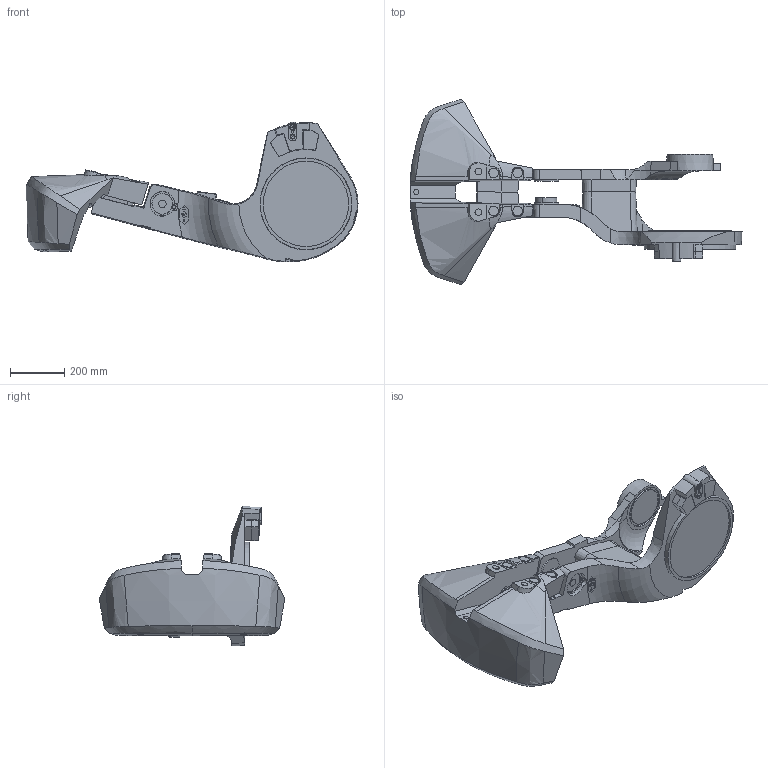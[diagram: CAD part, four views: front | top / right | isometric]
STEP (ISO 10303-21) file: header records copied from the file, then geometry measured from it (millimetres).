
FILE_DESCRIPTION (( 'STEP AP214' ), '1' );
FILE_NAME ('IRB7710_360kg-330_OC_00_LINKARM_CAD.STEP', '2023-09-26T08:32:00', ( '' ), ( '' ), 'SwSTEP 2.0', 'SolidWorks 2022', '' );
FILE_SCHEMA (( 'AUTOMOTIVE_DESIGN' ));
Length unit declared in the file: millimetre
Products named in the file (1): IRB7710_360kg-330_OC_00_LINKARM_CAD
Bounding box: 1225.57 x 685.64 x 516.58 mm (x, y, z)
Volume: 43340989.1 mm3; surface area: 1899135.5 mm2
Topology: 1 solids, 1 shells, 551 faces, 1386 edges, 900 vertices
Faces by surface type: plane 248, cylinder 115, cone 92, bspline 79, torus 13, sphere 4
Entity records: 34844 total; most frequent: CARTESIAN_POINT 22148, ORIENTED_EDGE 2764, DIRECTION 2356, EDGE_CURVE 1382, VERTEX_POINT 900, AXIS2_PLACEMENT_3D 874, EDGE_LOOP 622, LINE 608
